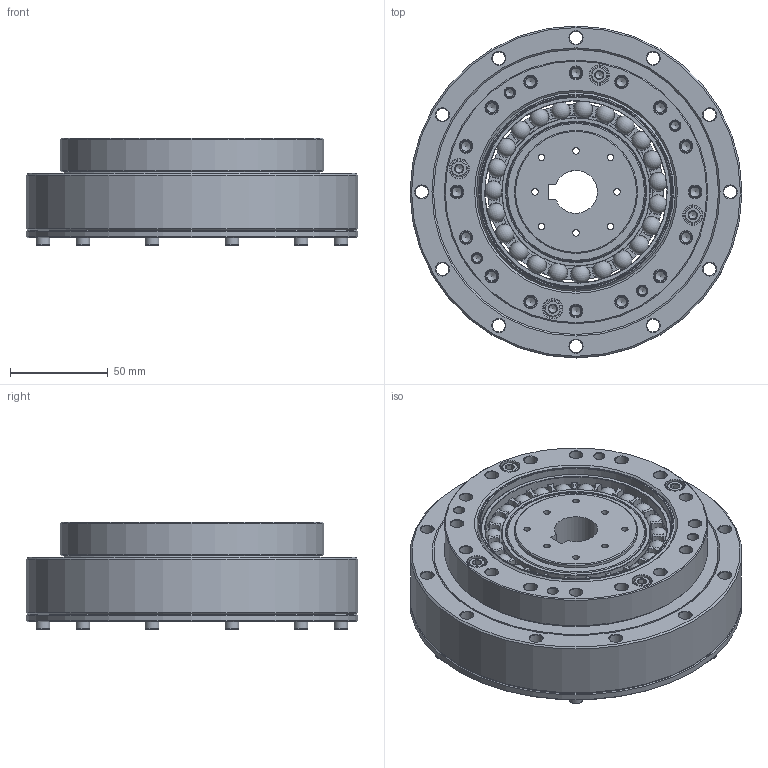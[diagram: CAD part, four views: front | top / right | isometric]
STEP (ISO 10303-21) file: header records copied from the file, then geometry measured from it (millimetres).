
FILE_DESCRIPTION(/* description */ (''),/* implementation_level */ '2;1');
FILE_NAME(/* name */ 'FHG-40-XX-U-I(孔径22W8).stp',/* time_stamp */ '2024-11-30T16:25:54+08:00',/* author */ (''),/* organization */ (''),/* preprocessor_version */ 'ST-DEVELOPER v16.7',/* originating_system */ 'SIEMENS PLM Software NX 12.0',/* authorisation */ '');
FILE_SCHEMA (('AUTOMOTIVE_DESIGN { 1 0 10303 214 3 1 1 1 }'));
Length unit declared in the file: millimetre
Products named in the file (15): EB719815-40KCH-46; EB719815-40KCH-04; EB719815-40KCH-02; EB719815-40KCH-01; TC-132x146x7; GB-T70.1-2000,M5x16; GB-T70.1-2000,M4x10; 发生器FSG-40-XXDL直径22w8_stp; O型密封圈113-108.25-1.5; O型密封圈148-142.6-1.5; 刚轮FHG-40; 柔轮FHG-40; EB719815-40KCH_stp; 交叉轴承LHT-40; FHG-40-XX-U-I(孔径22W8)
Assembly tree (22 placements, depth 3):
  FHG-40-XX-U-I(孔径22W8)
    柔轮FHG-40
    刚轮FHG-40
    交叉轴承LHT-40
      TC-132x146x7
    O型密封圈148-142.6-1.5
    O型密封圈113-108.25-1.5
    发生器FSG-40-XXDL直径22w8_stp
    EB719815-40KCH_stp
      EB719815-40KCH-01
      EB719815-40KCH-02
      EB719815-40KCH-04
      EB719815-40KCH-46
    GB-T70.1-2000,M4x10  x6
    GB-T70.1-2000,M5x16  x4
Bounding box: 170 x 170 x 55 mm (x, y, z)
Volume: 579473.4 mm3; surface area: 262263.1 mm2
Topology: 44 solids, 44 shells, 901 faces, 2087 edges, 1263 vertices
Faces by surface type: cone 310, plane 246, cylinder 233, torus 89, sphere 23
Full cylindrical faces by diameter (mm): 2.5 x4, 3.3 x28, 3.838 x6, 4.2 x8, 4.5 x12, 4.826 x4, 5 x16, 5.5 x8, 6.6 x40, 7 x6, 8.5 x4, 10 x4, 32 x1, 63 x1, 68.8 x1, 71.12 x2, 76.14 x2, 78.9 x1, 87 x1, 90.1 x1, 93.27 x2, 98.171 x2, 99.345 x1, 101.923 x1, 102.44 x1, 105 x1, 108 x2, 108.25 x2, 109 x1, 113 x2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
Entity records: 19367 total; most frequent: CARTESIAN_POINT 4290, DIRECTION 3190, ORIENTED_EDGE 2150, AXIS2_PLACEMENT_3D 1511, EDGE_LOOP 1249, FACE_BOUND 1099, EDGE_CURVE 1075, VERTEX_POINT 929
